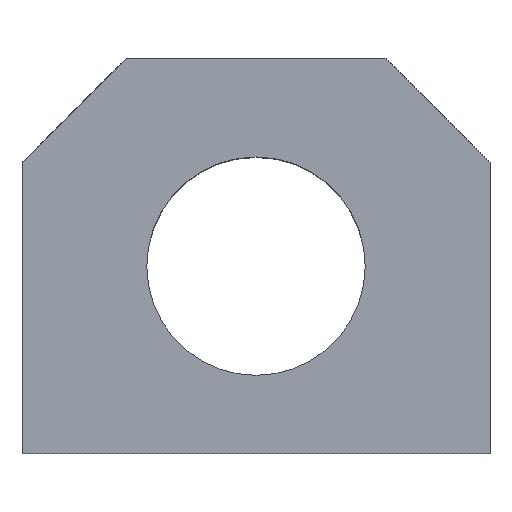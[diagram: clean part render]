
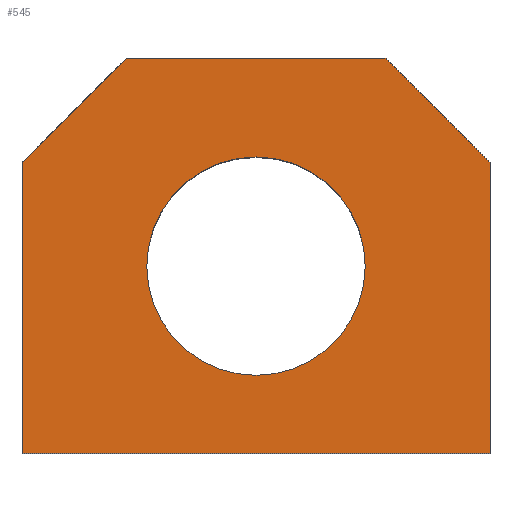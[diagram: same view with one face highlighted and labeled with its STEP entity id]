
A CAD part, top view. The second image highlights one B-rep face of the part: STEP entity #545.
In plain terms, the highlighted planar face has unit normal (0, 0, 1).
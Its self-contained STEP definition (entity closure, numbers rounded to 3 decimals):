
#25 = ORIENTED_EDGE ( 'NONE', *, *, #533, .T. ) ;
#30 = VECTOR ( 'NONE', #473, 1000. ) ;
#35 = VERTEX_POINT ( 'NONE', #361 ) ;
#39 = AXIS2_PLACEMENT_3D ( 'NONE', #711, #109, #381 ) ;
#53 = VECTOR ( 'NONE', #460, 1000. ) ;
#66 = LINE ( 'NONE', #482, #30 ) ;
#68 = EDGE_LOOP ( 'NONE', ( #734, #553, #175, #130, #88, #25 ) ) ;
#78 = DIRECTION ( 'NONE',  ( -0.707, -0.707, 0. ) ) ;
#83 = LINE ( 'NONE', #474, #680 ) ;
#88 = ORIENTED_EDGE ( 'NONE', *, *, #487, .T. ) ;
#109 = DIRECTION ( 'NONE',  ( 0., 0., 1. ) ) ;
#124 = CIRCLE ( 'NONE', #550, 10.5 ) ;
#130 = ORIENTED_EDGE ( 'NONE', *, *, #216, .T. ) ;
#132 = VECTOR ( 'NONE', #771, 1000. ) ;
#141 = VECTOR ( 'NONE', #78, 1000. ) ;
#173 = CARTESIAN_POINT ( 'NONE',  ( 15.75, 15.75, 14. ) ) ;
#175 = ORIENTED_EDGE ( 'NONE', *, *, #203, .F. ) ;
#192 = CARTESIAN_POINT ( 'NONE',  ( 12.5, 19., 14. ) ) ;
#200 = VERTEX_POINT ( 'NONE', #604 ) ;
#203 = EDGE_CURVE ( 'NONE', #200, #806, #66, .T. ) ;
#216 = EDGE_CURVE ( 'NONE', #200, #367, #537, .T. ) ;
#242 = CARTESIAN_POINT ( 'NONE',  ( -10.5, -1., 14. ) ) ;
#255 = CARTESIAN_POINT ( 'NONE',  ( 0., -1., 14. ) ) ;
#270 = VERTEX_POINT ( 'NONE', #505 ) ;
#291 = DIRECTION ( 'NONE',  ( 0., -1., 0. ) ) ;
#298 = LINE ( 'NONE', #173, #53 ) ;
#317 = CARTESIAN_POINT ( 'NONE',  ( -22.5, 19., 14. ) ) ;
#346 = CARTESIAN_POINT ( 'NONE',  ( 22.5, -19., 14. ) ) ;
#360 = CARTESIAN_POINT ( 'NONE',  ( 0., -1., 14. ) ) ;
#361 = CARTESIAN_POINT ( 'NONE',  ( 22.5, 9., 14. ) ) ;
#365 = VECTOR ( 'NONE', #855, 1000. ) ;
#367 = VERTEX_POINT ( 'NONE', #503 ) ;
#381 = DIRECTION ( 'NONE',  ( 1., 0., 0. ) ) ;
#418 = ORIENTED_EDGE ( 'NONE', *, *, #600, .F. ) ;
#446 = PLANE ( 'NONE',  #39 ) ;
#460 = DIRECTION ( 'NONE',  ( -0.707, 0.707, 0. ) ) ;
#462 = AXIS2_PLACEMENT_3D ( 'NONE', #360, #620, #538 ) ;
#472 = VERTEX_POINT ( 'NONE', #242 ) ;
#473 = DIRECTION ( 'NONE',  ( 1., 0., 0. ) ) ;
#474 = CARTESIAN_POINT ( 'NONE',  ( 22.5, 19., 14. ) ) ;
#482 = CARTESIAN_POINT ( 'NONE',  ( -22.5, 19., 14. ) ) ;
#487 = EDGE_CURVE ( 'NONE', #367, #270, #793, .T. ) ;
#503 = CARTESIAN_POINT ( 'NONE',  ( -22.5, 9., 14. ) ) ;
#505 = CARTESIAN_POINT ( 'NONE',  ( -22.5, -19., 14. ) ) ;
#522 = DIRECTION ( 'NONE',  ( 1., 0., 0. ) ) ;
#523 = EDGE_CURVE ( 'NONE', #35, #806, #298, .T. ) ;
#533 = EDGE_CURVE ( 'NONE', #270, #663, #573, .T. ) ;
#537 = LINE ( 'NONE', #742, #141 ) ;
#538 = DIRECTION ( 'NONE',  ( 1., 0., 0. ) ) ;
#545 = ADVANCED_FACE ( 'NONE', ( #569, #840 ), #446, .T. ) ;
#550 = AXIS2_PLACEMENT_3D ( 'NONE', #255, #847, #522 ) ;
#553 = ORIENTED_EDGE ( 'NONE', *, *, #523, .T. ) ;
#559 = ORIENTED_EDGE ( 'NONE', *, *, #762, .F. ) ;
#569 = FACE_BOUND ( 'NONE', #740, .T. ) ;
#573 = LINE ( 'NONE', #700, #365 ) ;
#600 = EDGE_CURVE ( 'NONE', #820, #472, #834, .T. ) ;
#604 = CARTESIAN_POINT ( 'NONE',  ( -12.5, 19., 14. ) ) ;
#612 = EDGE_CURVE ( 'NONE', #35, #663, #83, .T. ) ;
#620 = DIRECTION ( 'NONE',  ( 0., 0., 1. ) ) ;
#645 = CARTESIAN_POINT ( 'NONE',  ( 10.5, -1., 14. ) ) ;
#663 = VERTEX_POINT ( 'NONE', #346 ) ;
#680 = VECTOR ( 'NONE', #291, 1000. ) ;
#700 = CARTESIAN_POINT ( 'NONE',  ( -22.5, -19., 14. ) ) ;
#711 = CARTESIAN_POINT ( 'NONE',  ( 0., 0., 14. ) ) ;
#734 = ORIENTED_EDGE ( 'NONE', *, *, #612, .F. ) ;
#740 = EDGE_LOOP ( 'NONE', ( #418, #559 ) ) ;
#742 = CARTESIAN_POINT ( 'NONE',  ( -15.75, 15.75, 14. ) ) ;
#762 = EDGE_CURVE ( 'NONE', #472, #820, #124, .T. ) ;
#771 = DIRECTION ( 'NONE',  ( 0., -1., 0. ) ) ;
#793 = LINE ( 'NONE', #317, #132 ) ;
#806 = VERTEX_POINT ( 'NONE', #192 ) ;
#820 = VERTEX_POINT ( 'NONE', #645 ) ;
#834 = CIRCLE ( 'NONE', #462, 10.5 ) ;
#840 = FACE_OUTER_BOUND ( 'NONE', #68, .T. ) ;
#847 = DIRECTION ( 'NONE',  ( 0., 0., 1. ) ) ;
#855 = DIRECTION ( 'NONE',  ( 1., 0., 0. ) ) ;
